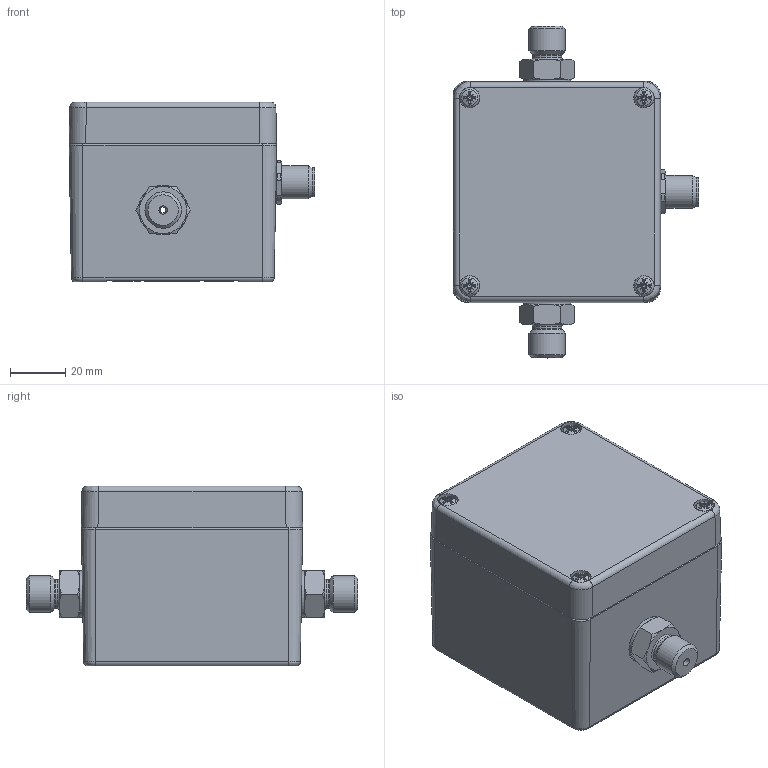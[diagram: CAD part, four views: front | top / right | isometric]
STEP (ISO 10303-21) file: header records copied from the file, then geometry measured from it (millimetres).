
FILE_DESCRIPTION(/* description */ (''),/* implementation_level */ '2;1');
FILE_NAME(/* name */ 'F:\Tausch\kuelper\3D-Modelle\VMI02ASS00YGX100.stp',/* time_stamp */ '2021-08-11T11:27:35+02:00',/* author */ ('kuelper'),/* organization */ (''),/* preprocessor_version */ 'ST-DEVELOPER v18',/* originating_system */ 'Autodesk Inventor 2020',/* authorisation */ '');
FILE_SCHEMA (('AUTOMOTIVE_DESIGN { 1 0 10303 214 3 1 1 }'));
Products named in the file (1): Magnetisch-Induktiver-Durchflusssensor_Type_VMI02-Y_MID-0808_00335926
Bounding box: 88.88 x 120 x 65.04 mm (x, y, z)
Volume: 163044.9 mm3; surface area: 104523.3 mm2
Topology: 14 solids, 51 shells, 3741 faces, 10310 edges, 6606 vertices
Faces by surface type: plane 2099, bspline 661, cylinder 568, cone 241, torus 136, sphere 36
Full cylindrical faces by diameter (mm): 0.42 x10, 0.8 x5, 1 x19, 1.1 x2, 1.2 x1, 1.4 x6, 1.5 x5, 1.7 x2, 1.8 x2, 2 x10, 2.25 x4, 2.8 x1, 3 x10, 3.242 x11, 3.3 x6, 3.5 x4, 4 x4, 4.2 x2, 4.6 x4, 5.2 x1, 5.3 x1, 6 x6, 7 x2, 7.2 x4, 7.4 x4, 7.5 x2, 8.3 x1, 8.8 x2, 8.9 x4, 10 x6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
Entity records: 143751 total; most frequent: CARTESIAN_POINT 47001, ORIENTED_EDGE 20578, DIRECTION 17507, EDGE_CURVE 10289, VERTEX_POINT 6600, LINE 6403, VECTOR 6403, AXIS2_PLACEMENT_3D 5552
